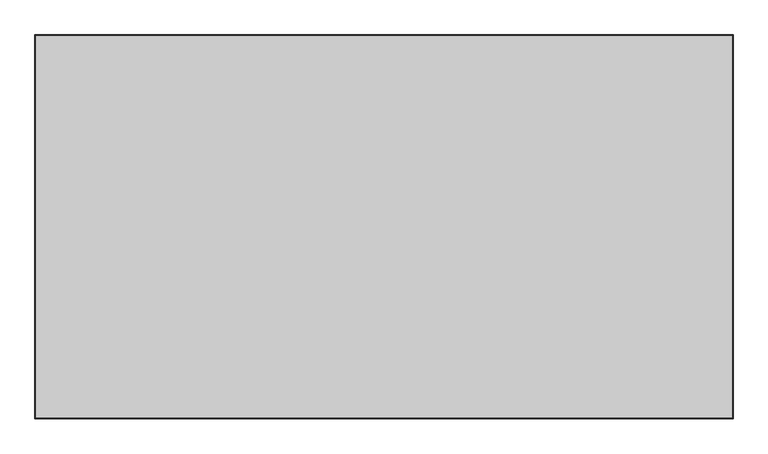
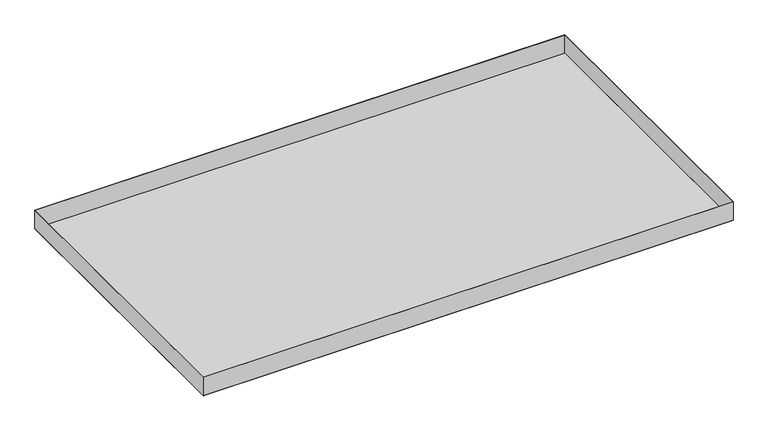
"""IFC4 building model written with IfcOpenShell, lengths in millimetres: proxy geometry, durlum_S-OM-100-RHOMBOS_panel : durlum_S-OM-100-RHOMBOS_panel."""

from ifc_helpers import new_model, si_unit, frame, origin, origin_with_axes, place, context, project, spatial, polyline, outline, extrude, source, transform, mapped, element, save


def generic_models_5d724c03(model_context):
    return source(origin(), model_context, "Body", "SweptSolid", [
        extrude(outline(polyline([(545.0, 299.5), (545.0, -299.5), (-545.0, -299.5), (-545.0, 299.5), (545.0, 299.5)]), holes=[polyline([(544.4, 298.9), (-544.4, 298.9), (-544.4, -298.9), (544.4, -298.9), (544.4, 298.9)])]), frame((0.0, 0.0, 0.6), z_axis=(0.0, 0.0, 1.0), x_axis=(1.0, 0.0, 0.0)), (0.0, 0.0, 1.0), 39.4),
        extrude(outline(polyline([(544.0, 298.5), (544.0, -298.5), (-544.0, -298.5), (-544.0, 298.5), (544.0, 298.5)])), frame((0.0, 0.0, 0.6), z_axis=(0.0, 0.0, 1.0), x_axis=(1.0, 0.0, 0.0)), (0.0, 0.0, 1.0), 0.6),
        extrude(outline(polyline([(545.0, 299.5), (545.0, -299.5), (-545.0, -299.5), (-545.0, 299.5), (545.0, 299.5)]), holes=[polyline([(544.0, 298.5), (-544.0, 298.5), (-544.0, -298.5), (544.0, -298.5), (544.0, 298.5)])]), origin_with_axes(), (0.0, 0.0, 1.0), 0.6),
        extrude(outline(polyline([(544.0, 298.5), (544.0, -298.5), (-544.0, -298.5), (-544.0, 298.5), (544.0, 298.5)])), origin_with_axes(), (0.0, 0.0, 1.0), 0.6),
    ])


if __name__ == "__main__":
    model = new_model("IFC4")
    model_context = context("Model", 3, world=origin())
    ifc_project = project(units=[si_unit("LENGTHUNIT", "METRE", prefix="MILLI")], contexts=[model_context])
    site = spatial("IfcSite", under=ifc_project)
    building = spatial("IfcBuilding", under=site)
    placement = place(None, origin())
    generic_models_shape = generic_models_5d724c03(model_context)
    element("IfcBuildingElementProxy", 1, Name="durlum_S-OM-100-RHOMBOS_panel : durlum_S-OM-100-RHOMBOS_panel", ObjectType="durlum_S-OM-100-RHOMBOS_panel : durlum_S-OM-100-RHOMBOS_panel", at=placement, inside=building, context=model_context, shape_type="MappedRepresentation", body=[
        mapped(generic_models_shape, transform((0.0, 0.0, 0.0), x_axis=(1.0, 0.0, 0.0), y_axis=(0.0, 1.0, 0.0), z_axis=(0.0, 0.0, 1.0))),
    ])
    save(model, "model.ifc")
